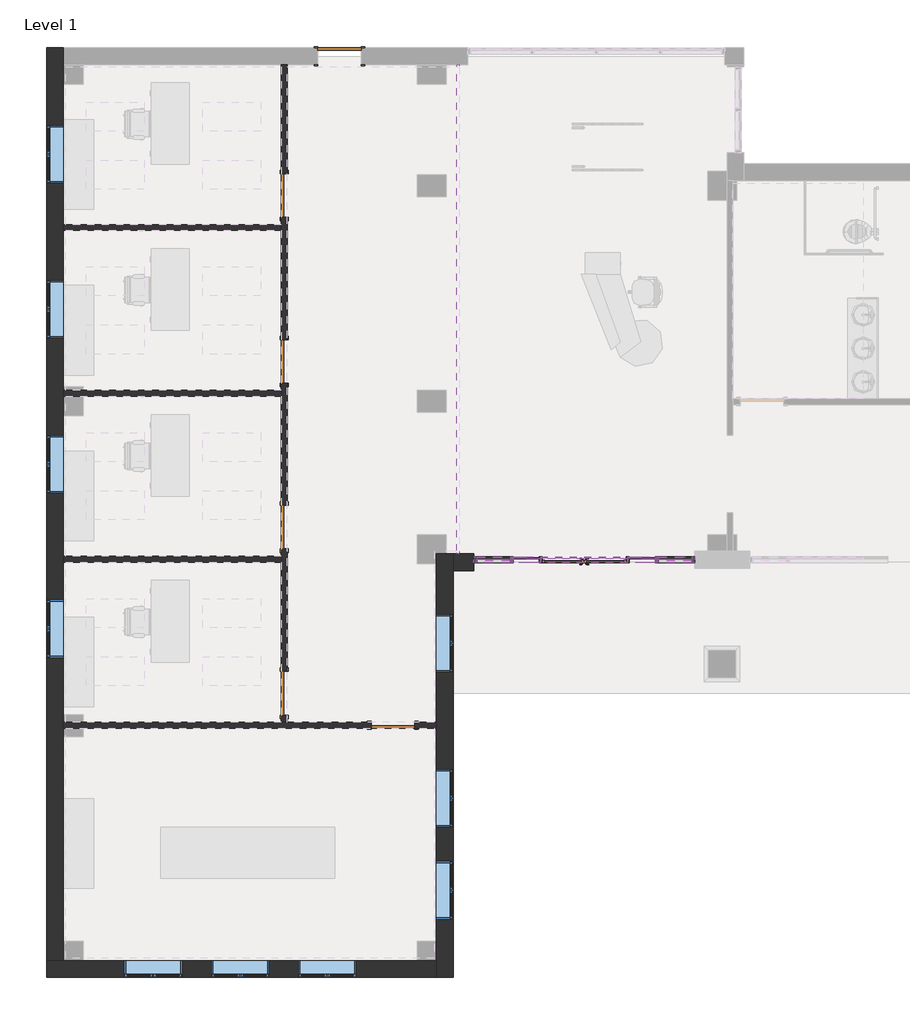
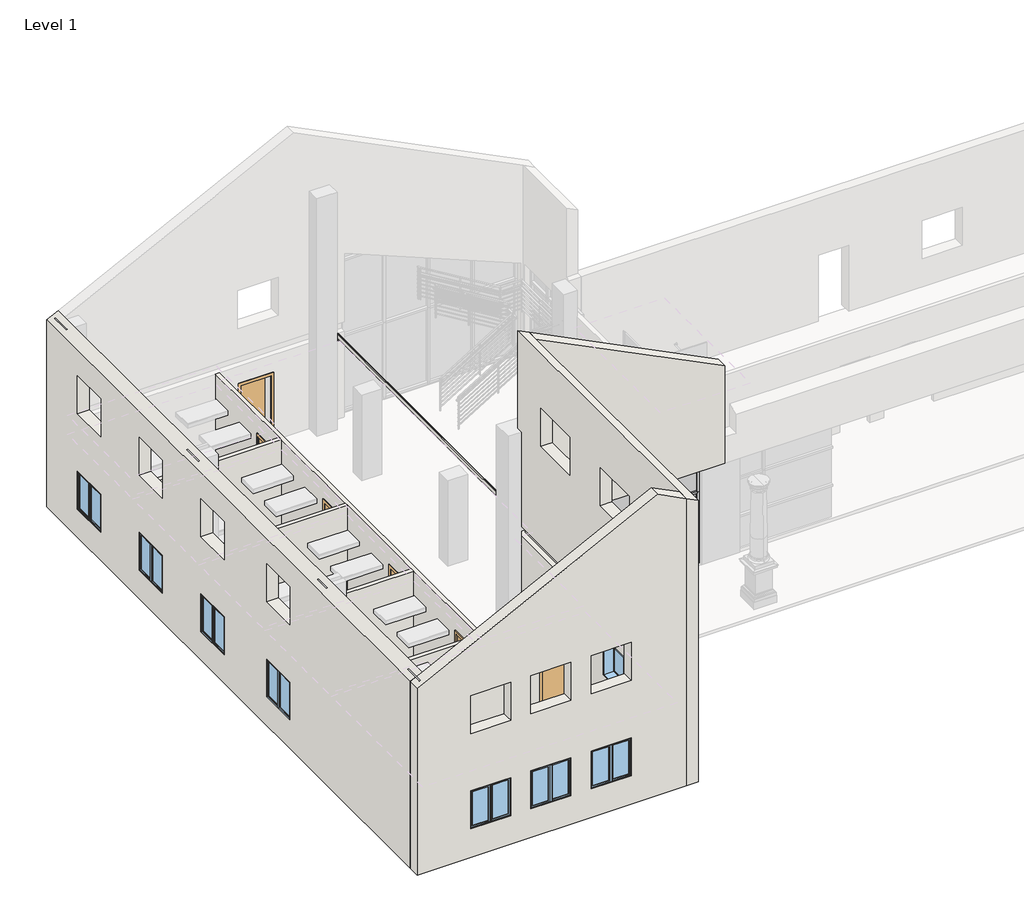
# One storey, part 1 of 8: 28 members, 10 walls, 10 windows, 9 plates, 7 doors.
"""IFC4 building model written with IfcOpenShell, lengths in millimetres."""

from ifc_helpers import new_model, si_unit, origin, origin_with_axes, place, context, project, spatial, polyline, outline, extrude, faceted_brep, transform, mapped, element, save
from components import curtain_wall_store_front_dbl_store_front_double_door_b1cda55e, door_cc5399a4, door_eb9f8b14, member_a715cb85, member_2b49869a, member_c7c5a8a0, member_f3028526, member_75074519, member_c4de40ee, member_2fae0574, member_47bfaf8a, member_13dc6413, member_4ab4c2f5, member_b5e65c95, member_b3f2e294, member_d60e8053, member_3ca69e07, member_338de68b, system_panel_glazed_53b4157c, system_panel_glazed_7b5ce646, system_panel_glazed_23a32a5b, system_panel_glazed_4b03a3f1, system_panel_glazed_2f00aa6c, system_panel_glazed_88a41a63, system_panel_solid_52285aff, system_panel_solid_6039f36e, window_75435c65

model = new_model("IFC4")

# Units and contexts
model_context = context("Model", 3, world=origin())
ifc_project = project(units=[si_unit("LENGTHUNIT", "METRE", prefix="MILLI")], contexts=[model_context])

# Site, building, storey
site = spatial("IfcSite", under=ifc_project)
building = spatial("IfcBuilding", under=site)
storey = spatial("IfcBuildingStorey", under=building, Name="Level 1", Elevation=0.0)

# Doors
placement = place(None, origin())
curtain_wall_store_front_dbl_store_front_double_door_shape = curtain_wall_store_front_dbl_store_front_double_door_b1cda55e(model_context)
element("IfcDoor", 1, ObjectType="Curtain Wall-Store Front-Dbl : Store Front Double Door", at=placement, inside=storey, context=model_context, shape_type="MappedRepresentation", body=[
    mapped(curtain_wall_store_front_dbl_store_front_double_door_shape, transform((-2655.3516552, 175.3980424, 0.0), x_axis=(1.0, 0.0, 0.0), y_axis=(0.0, 1.0, 0.0), z_axis=(0.0, 0.0, 1.0))),
])
door_shape = door_cc5399a4(model_context)
element("IfcDoor", 2, ObjectType="Single-Flush : 36\" x 84\"", at=placement, inside=storey, context=model_context, shape_type="MappedRepresentation", body=[
    mapped(door_shape, transform((-7789.3266552, 10744.9730424, 0.0), x_axis=(-1.0, 0.0, 0.0), y_axis=(0.0, -1.0, 0.0), z_axis=(0.0, 0.0, 1.0))),
])
door_2_shape = door_eb9f8b14(model_context)
element("IfcDoor", 3, ObjectType="Single-Flush : 36\" x 84\"", at=placement, inside=storey, context=model_context, shape_type="MappedRepresentation", body=[
    mapped(door_2_shape, transform((-6668.5516552, -3294.8769576, 0.0), x_axis=(1.0, 0.0, 0.0), y_axis=(0.0, 1.0, 0.0), z_axis=(0.0, 0.0, 1.0))),
])
element("IfcDoor", 4, ObjectType="Single-Flush : 36\" x 84\"", at=placement, inside=storey, context=model_context, shape_type="MappedRepresentation", body=[
    mapped(door_2_shape, transform((-8949.7891552, -2623.3644576, 0.0), x_axis=(0.0, -1.0, 0.0), y_axis=(1.0, 0.0, 0.0), z_axis=(0.0, 0.0, 1.0))),
])
element("IfcDoor", 5, ObjectType="Single-Flush : 36\" x 84\"", at=placement, inside=storey, context=model_context, shape_type="MappedRepresentation", body=[
    mapped(door_2_shape, transform((-8949.7891552, 862.7855424, 0.0), x_axis=(0.0, -1.0, 0.0), y_axis=(1.0, 0.0, 0.0), z_axis=(0.0, 0.0, 1.0))),
])
element("IfcDoor", 6, ObjectType="Single-Flush : 36\" x 84\"", at=placement, inside=storey, context=model_context, shape_type="MappedRepresentation", body=[
    mapped(door_2_shape, transform((-8949.7891552, 4339.4105424, 0.0), x_axis=(0.0, -1.0, 0.0), y_axis=(1.0, 0.0, 0.0), z_axis=(0.0, 0.0, 1.0))),
])
element("IfcDoor", 7, ObjectType="Single-Flush : 36\" x 84\"", at=placement, inside=storey, context=model_context, shape_type="MappedRepresentation", body=[
    mapped(door_2_shape, transform((-8949.7891552, 7820.7980424, 0.0), x_axis=(0.0, -1.0, 0.0), y_axis=(1.0, 0.0, 0.0), z_axis=(0.0, 0.0, 1.0))),
])

# Members
member_shape = member_a715cb85(model_context)
element("IfcMember", 8, ObjectType="Rectangular Mullion : 2.5\" x 5\" Rectangular", at=placement, inside=storey, context=model_context, shape_type="MappedRepresentation", body=[
    mapped(member_shape, transform((-4179.3516552, 175.3980424, 0.0), x_axis=(1.0, 0.0, 0.0), y_axis=(0.0, -1.0, 0.0), z_axis=(0.0, 0.0, -1.0))),
])
element("IfcMember", 9, ObjectType="Rectangular Mullion : 2.5\" x 5\" Rectangular", at=placement, inside=storey, context=model_context, shape_type="MappedRepresentation", body=[
    mapped(member_shape, transform((-1131.3516552, 175.3980424, 0.0), x_axis=(1.0, 0.0, 0.0), y_axis=(0.0, -1.0, 0.0), z_axis=(0.0, 0.0, -1.0))),
])
element("IfcMember", 10, ObjectType="Rectangular Mullion : 2.5\" x 5\" Rectangular", at=placement, inside=storey, context=model_context, shape_type="MappedRepresentation", body=[
    mapped(member_shape, transform((-369.3516552, 175.3980424, 0.0), x_axis=(1.0, 0.0, 0.0), y_axis=(0.0, -1.0, 0.0), z_axis=(0.0, 0.0, -1.0))),
])
member_2_shape = member_2b49869a(model_context)
element("IfcMember", 11, ObjectType="Rectangular Mullion : 2.5\" x 5\" Rectangular", at=placement, inside=storey, context=model_context, shape_type="MappedRepresentation", body=[
    mapped(member_2_shape, transform((-4179.3516552, 175.3980424, 1066.8), x_axis=(1.0, 0.0, 0.0), y_axis=(0.0, -1.0, 0.0), z_axis=(0.0, 0.0, -1.0))),
])
element("IfcMember", 12, ObjectType="Rectangular Mullion : 2.5\" x 5\" Rectangular", at=placement, inside=storey, context=model_context, shape_type="MappedRepresentation", body=[
    mapped(member_2_shape, transform((-1131.3516552, 175.3980424, 1066.8), x_axis=(1.0, 0.0, 0.0), y_axis=(0.0, -1.0, 0.0), z_axis=(0.0, 0.0, -1.0))),
])
element("IfcMember", 13, ObjectType="Rectangular Mullion : 2.5\" x 5\" Rectangular", at=placement, inside=storey, context=model_context, shape_type="MappedRepresentation", body=[
    mapped(member_2_shape, transform((-369.3516552, 175.3980424, 1066.8), x_axis=(1.0, 0.0, 0.0), y_axis=(0.0, -1.0, 0.0), z_axis=(0.0, 0.0, -1.0))),
])
member_3_shape = member_c7c5a8a0(model_context)
element("IfcMember", 14, ObjectType="Rectangular Mullion : 2.5\" x 5\" Rectangular", at=placement, inside=storey, context=model_context, shape_type="MappedRepresentation", body=[
    mapped(member_3_shape, transform((-401.1016552, 175.3980424, 2286.0), x_axis=(0.0, 0.0, 1.0), y_axis=(0.0, -1.0, 0.0), z_axis=(1.0, 0.0, 0.0))),
])
element("IfcMember", 15, ObjectType="Rectangular Mullion : 2.5\" x 5\" Rectangular", at=placement, inside=storey, context=model_context, shape_type="MappedRepresentation", body=[
    mapped(member_3_shape, transform((-401.1016552, 175.3980424, 1066.8), x_axis=(0.0, 0.0, 1.0), y_axis=(0.0, -1.0, 0.0), z_axis=(1.0, 0.0, 0.0))),
])
member_4_shape = member_f3028526(model_context)
element("IfcMember", 16, ObjectType="Rectangular Mullion : 2.5\" x 5\" Rectangular", at=placement, inside=storey, context=model_context, shape_type="MappedRepresentation", body=[
    mapped(member_4_shape, transform((-4211.1016552, 175.3980424, 2286.0), x_axis=(0.0, 0.0, 1.0), y_axis=(0.0, -1.0, 0.0), z_axis=(1.0, 0.0, 0.0))),
])
element("IfcMember", 17, ObjectType="Rectangular Mullion : 2.5\" x 5\" Rectangular", at=placement, inside=storey, context=model_context, shape_type="MappedRepresentation", body=[
    mapped(member_4_shape, transform((-4211.1016552, 175.3980424, 1066.8), x_axis=(0.0, 0.0, 1.0), y_axis=(0.0, -1.0, 0.0), z_axis=(1.0, 0.0, 0.0))),
])
member_5_shape = member_75074519(model_context)
element("IfcMember", 18, ObjectType="Rectangular Mullion : 2.5\" x 5\" Rectangular", at=placement, inside=storey, context=model_context, shape_type="MappedRepresentation", body=[
    mapped(member_5_shape, transform((-4968.3391552, 175.3980424, 2286.0), x_axis=(-1.0, 0.0, 0.0), y_axis=(0.0, -1.0, 0.0), z_axis=(0.0, 0.0, 1.0))),
])
member_6_shape = member_c4de40ee(model_context)
element("IfcMember", 19, ObjectType="Rectangular Mullion : 2.5\" x 5\" Rectangular", at=placement, inside=storey, context=model_context, shape_type="MappedRepresentation", body=[
    mapped(member_6_shape, transform((-4968.3391552, 175.3980424, 1066.8), x_axis=(-1.0, 0.0, 0.0), y_axis=(0.0, -1.0, 0.0), z_axis=(0.0, 0.0, 1.0))),
])
member_7_shape = member_2fae0574(model_context)
element("IfcMember", 20, ObjectType="Rectangular Mullion : 2.5\" x 5\" Rectangular", at=placement, inside=storey, context=model_context, shape_type="MappedRepresentation", body=[
    mapped(member_7_shape, transform((-1740.9516552, 175.3980424, 3060.0), x_axis=(0.0, 0.0, 1.0), y_axis=(0.0, -1.0, 0.0), z_axis=(1.0, 0.0, 0.0))),
])
member_8_shape = member_47bfaf8a(model_context)
element("IfcMember", 21, ObjectType="Rectangular Mullion : 2.5\" x 5\" Rectangular", at=placement, inside=storey, context=model_context, shape_type="MappedRepresentation", body=[
    mapped(member_8_shape, transform((-3569.7516552, 175.3980424, 3060.0), x_axis=(0.0, 0.0, 1.0), y_axis=(0.0, -1.0, 0.0), z_axis=(1.0, 0.0, 0.0))),
])
element("IfcMember", 22, ObjectType="Rectangular Mullion : 2.5\" x 5\" Rectangular", at=placement, inside=storey, context=model_context, shape_type="MappedRepresentation", body=[
    mapped(member_8_shape, transform((-1131.3516552, 175.3980424, 3060.0), x_axis=(0.0, 0.0, 1.0), y_axis=(0.0, -1.0, 0.0), z_axis=(1.0, 0.0, 0.0))),
])
member_9_shape = member_13dc6413(model_context)
element("IfcMember", 23, ObjectType="Rectangular Mullion : 2.5\" x 5\" Rectangular", at=placement, inside=storey, context=model_context, shape_type="MappedRepresentation", body=[
    mapped(member_9_shape, transform((-337.6016552, 175.3980424, 3060.0), x_axis=(0.0, 0.0, 1.0), y_axis=(0.0, -1.0, 0.0), z_axis=(1.0, 0.0, 0.0))),
])
member_10_shape = member_4ab4c2f5(model_context)
element("IfcMember", 24, ObjectType="Rectangular Mullion : 2.5\" x 5\" Rectangular", at=placement, inside=storey, context=model_context, shape_type="MappedRepresentation", body=[
    mapped(member_10_shape, transform((-4179.3516552, 175.3980424, 3060.0), x_axis=(0.0, 0.0, 1.0), y_axis=(0.0, -1.0, 0.0), z_axis=(1.0, 0.0, 0.0))),
])
element("IfcMember", 25, ObjectType="Rectangular Mullion : 2.5\" x 5\" Rectangular", at=placement, inside=storey, context=model_context, shape_type="MappedRepresentation", body=[
    mapped(member_shape, transform((-3569.7516552, 175.3980424, 0.0), x_axis=(1.0, 0.0, 0.0), y_axis=(0.0, -1.0, 0.0), z_axis=(0.0, 0.0, -1.0))),
])
element("IfcMember", 26, ObjectType="Rectangular Mullion : 2.5\" x 5\" Rectangular", at=placement, inside=storey, context=model_context, shape_type="MappedRepresentation", body=[
    mapped(member_shape, transform((-1740.9516552, 175.3980424, 0.0), x_axis=(1.0, 0.0, 0.0), y_axis=(0.0, -1.0, 0.0), z_axis=(0.0, 0.0, -1.0))),
])
member_11_shape = member_b5e65c95(model_context)
element("IfcMember", 27, ObjectType="Rectangular Mullion : 2.5\" x 5\" Rectangular", at=placement, inside=storey, context=model_context, shape_type="MappedRepresentation", body=[
    mapped(member_11_shape, transform((-3569.7516552, 175.3980424, 2286.0), x_axis=(0.0, 0.0, 1.0), y_axis=(0.0, -1.0, 0.0), z_axis=(1.0, 0.0, 0.0))),
])
member_12_shape = member_b3f2e294(model_context)
element("IfcMember", 28, ObjectType="Rectangular Mullion : 2.5\" x 5\" Rectangular", at=placement, inside=storey, context=model_context, shape_type="MappedRepresentation", body=[
    mapped(member_12_shape, transform((-3569.7516552, 175.3980424, 1066.8), x_axis=(1.0, 0.0, 0.0), y_axis=(0.0, -1.0, 0.0), z_axis=(0.0, 0.0, -1.0))),
])
element("IfcMember", 29, ObjectType="Rectangular Mullion : 2.5\" x 5\" Rectangular", at=placement, inside=storey, context=model_context, shape_type="MappedRepresentation", body=[
    mapped(member_12_shape, transform((-1740.9516552, 175.3980424, 1066.8), x_axis=(1.0, 0.0, 0.0), y_axis=(0.0, -1.0, 0.0), z_axis=(0.0, 0.0, -1.0))),
])
element("IfcMember", 30, ObjectType="Rectangular Mullion : 2.5\" x 5\" Rectangular", at=placement, inside=storey, context=model_context, shape_type="MappedRepresentation", body=[
    mapped(member_11_shape, transform((-1163.1016552, 175.3980424, 2286.0), x_axis=(0.0, 0.0, 1.0), y_axis=(0.0, -1.0, 0.0), z_axis=(1.0, 0.0, 0.0))),
])
member_13_shape = member_d60e8053(model_context)
element("IfcMember", 31, ObjectType="Rectangular Mullion : 2.5\" x 5\" Rectangular", at=placement, inside=storey, context=model_context, shape_type="MappedRepresentation", body=[
    mapped(member_13_shape, transform((-1740.9516552, 175.3980424, 2286.0), x_axis=(0.0, 0.0, 1.0), y_axis=(0.0, -1.0, 0.0), z_axis=(1.0, 0.0, 0.0))),
])
member_14_shape = member_3ca69e07(model_context)
element("IfcMember", 32, ObjectType="Rectangular Mullion : 2.5\" x 5\" Rectangular", at=placement, inside=storey, context=model_context, shape_type="MappedRepresentation", body=[
    mapped(member_14_shape, transform((-4179.3516552, 175.3980424, 2286.0), x_axis=(1.0, 0.0, 0.0), y_axis=(0.0, -1.0, 0.0), z_axis=(0.0, 0.0, -1.0))),
])
element("IfcMember", 33, ObjectType="Rectangular Mullion : 2.5\" x 5\" Rectangular", at=placement, inside=storey, context=model_context, shape_type="MappedRepresentation", body=[
    mapped(member_14_shape, transform((-1131.3516552, 175.3980424, 2286.0), x_axis=(1.0, 0.0, 0.0), y_axis=(0.0, -1.0, 0.0), z_axis=(0.0, 0.0, -1.0))),
])
element("IfcMember", 34, ObjectType="Rectangular Mullion : 2.5\" x 5\" Rectangular", at=placement, inside=storey, context=model_context, shape_type="MappedRepresentation", body=[
    mapped(member_14_shape, transform((-369.3516552, 175.3980424, 2286.0), x_axis=(1.0, 0.0, 0.0), y_axis=(0.0, -1.0, 0.0), z_axis=(0.0, 0.0, -1.0))),
])
member_15_shape = member_338de68b(model_context)
element("IfcMember", 35, ObjectType="Rectangular Mullion : 2.5\" x 5\" Rectangular", at=placement, inside=storey, context=model_context, shape_type="MappedRepresentation", body=[
    mapped(member_15_shape, transform((-4968.3391552, 175.3980424, 2996.5), x_axis=(-1.0, 0.0, 0.0), y_axis=(0.0, -1.0, 0.0), z_axis=(0.0, 0.0, 1.0))),
])

# Plates
system_panel_glazed_shape = system_panel_glazed_53b4157c(model_context)
element("IfcPlate", 36, ObjectType="System Panel : Glazed", at=placement, inside=storey, context=model_context, shape_type="MappedRepresentation", body=[
    mapped(system_panel_glazed_shape, transform((-750.3516552, 175.3980424, 0.0), x_axis=(1.0, 0.0, 0.0), y_axis=(0.0, 1.0, 0.0), z_axis=(0.0, 0.0, 1.0))),
])
system_panel_glazed_2_shape = system_panel_glazed_7b5ce646(model_context)
element("IfcPlate", 37, ObjectType="System Panel : Glazed", at=placement, inside=storey, context=model_context, shape_type="MappedRepresentation", body=[
    mapped(system_panel_glazed_2_shape, transform((-750.3516552, 175.3980424, 1098.55), x_axis=(1.0, 0.0, 0.0), y_axis=(0.0, 1.0, 0.0), z_axis=(0.0, 0.0, 1.0))),
])
system_panel_glazed_3_shape = system_panel_glazed_23a32a5b(model_context)
element("IfcPlate", 38, ObjectType="System Panel : Glazed", at=placement, inside=storey, context=model_context, shape_type="MappedRepresentation", body=[
    mapped(system_panel_glazed_3_shape, transform((-4557.9704052, 175.3980424, 0.0), x_axis=(1.0, 0.0, 0.0), y_axis=(0.0, 1.0, 0.0), z_axis=(0.0, 0.0, 1.0))),
])
system_panel_glazed_4_shape = system_panel_glazed_4b03a3f1(model_context)
element("IfcPlate", 39, ObjectType="System Panel : Glazed", at=placement, inside=storey, context=model_context, shape_type="MappedRepresentation", body=[
    mapped(system_panel_glazed_4_shape, transform((-4557.9704052, 175.3980424, 1098.55), x_axis=(1.0, 0.0, 0.0), y_axis=(0.0, 1.0, 0.0), z_axis=(0.0, 0.0, 1.0))),
])
system_panel_glazed_5_shape = system_panel_glazed_2f00aa6c(model_context)
element("IfcPlate", 40, ObjectType="System Panel : Glazed", at=placement, inside=storey, context=model_context, shape_type="MappedRepresentation", body=[
    mapped(system_panel_glazed_5_shape, transform((-3874.5516552, 175.3980424, 0.0), x_axis=(1.0, 0.0, 0.0), y_axis=(0.0, 1.0, 0.0), z_axis=(0.0, 0.0, 1.0))),
])
element("IfcPlate", 41, ObjectType="System Panel : Glazed", at=placement, inside=storey, context=model_context, shape_type="MappedRepresentation", body=[
    mapped(system_panel_glazed_5_shape, transform((-1436.1516552, 175.3980424, 0.0), x_axis=(1.0, 0.0, 0.0), y_axis=(0.0, 1.0, 0.0), z_axis=(0.0, 0.0, 1.0))),
])
system_panel_glazed_6_shape = system_panel_glazed_88a41a63(model_context)
element("IfcPlate", 42, ObjectType="System Panel : Glazed", at=placement, inside=storey, context=model_context, shape_type="MappedRepresentation", body=[
    mapped(system_panel_glazed_6_shape, transform((-2655.3516552, 175.3980424, 2317.75), x_axis=(1.0, 0.0, 0.0), y_axis=(0.0, 1.0, 0.0), z_axis=(0.0, 0.0, 1.0))),
])
system_panel_solid_shape = system_panel_solid_52285aff(model_context)
element("IfcPlate", 43, ObjectType="System Panel : Solid", at=placement, inside=storey, context=model_context, shape_type="MappedRepresentation", body=[
    mapped(system_panel_solid_shape, transform((-4557.9704052, 175.3980424, 2317.75), x_axis=(1.0, 0.0, 0.0), y_axis=(0.0, 1.0, 0.0), z_axis=(0.0, 0.0, 1.0))),
])
system_panel_solid_2_shape = system_panel_solid_6039f36e(model_context)
element("IfcPlate", 44, ObjectType="System Panel : Solid", at=placement, inside=storey, context=model_context, shape_type="MappedRepresentation", body=[
    mapped(system_panel_solid_2_shape, transform((-750.3516552, 175.3980424, 2317.75), x_axis=(1.0, 0.0, 0.0), y_axis=(0.0, 1.0, 0.0), z_axis=(0.0, 0.0, 1.0))),
])

# Walls
element("IfcWall", 45, ObjectType="Soffit - 1/2\" GWB & Metal Stud", at=placement, inside=storey, context=model_context, shape_type="Brep", body=[
    faceted_brep([(-5273.1391552, 10568.7605424, 2755.2), (-5273.1391552, 300.8105424, 2755.2), (-5273.1391552, 300.8105424, 2540.0), (-5273.1391552, 351.6105424, 2540.0), (-5273.1391552, 351.6105424, 2647.95), (-5273.1391552, 10517.9605424, 2647.95), (-5273.1391552, 10517.9605424, 2540.0), (-5273.1391552, 10568.7605424, 2540.0), (-5323.9391552, 10568.7605424, 2755.2), (-5323.9391552, 10568.7605424, 2540.0), (-5323.9391552, 10517.9605424, 2540.0), (-5323.9391552, 10517.9605424, 2647.95), (-5323.9391552, 351.6105424, 2647.95), (-5323.9391552, 351.6105424, 2540.0), (-5323.9391552, 300.8105424, 2540.0), (-5323.9391552, 300.8105424, 2755.2), (-5284.2516552, 10568.7605424, 2755.2), (-5284.2516552, 9554.527236, 2755.2), (-5284.2516552, 300.8105424, 2755.2)], [[[0, 1, 2, 3, 4, 5, 6, 7]], [[8, 9, 10, 11, 12, 13, 14, 15]], [[9, 7, 6, 10]], [[2, 14, 13, 3]], [[11, 5, 4, 12]], [[12, 4, 3, 13]], [[5, 11, 10, 6]], [[1, 0, 16, 17, 18]], [[0, 7, 9, 8, 16]], [[2, 1, 18, 15, 14]], [[16, 8, 15, 18, 17]]]),
])
element("IfcWall", 46, ObjectType="Exterior - Brick on Mtl. Stud", at=placement, inside=storey, context=model_context, shape_type="Brep", body=[
    faceted_brep([(-5754.1516552, 300.8105424, 0.0), (-5754.1516552, 97.6105424, 0.0), (-5754.1516552, -3232.9644576, 0.0), (-5754.1516552, -3356.7894576, 0.0), (-5754.1516552, -7827.1894576, 0.0), (-5754.1516552, -8233.5894576, 0.0), (-5754.1516552, -8586.0144576, 0.0), (-5754.1516552, -8586.0144576, 9230.55), (-5754.1516552, -8233.5894576, 9230.55), (-5754.1516552, 300.8105424, 9230.55), (-5754.1516552, 300.8105424, 6100.0), (-5754.1516552, 300.8105424, 3060.0), (-5754.1516552, -3232.9644576, 3060.0), (-5754.1516552, -3356.7894576, 3060.0), (-5754.1516552, -8233.5894576, 3060.0), (-5754.1516552, -8398.6894576, 3060.0), (-5754.1516552, -8398.6894576, 2755.2), (-5754.1516552, -8233.5894576, 2755.2), (-5754.1516552, -3356.7894576, 2755.2), (-5754.1516552, -3232.9644576, 2755.2), (-5754.1516552, 300.8105424, 2755.2), (-5754.1516552, -7366.8144576, 2133.6), (-5754.1516552, -7366.8144576, 914.4), (-5754.1516552, -6147.6144576, 914.4), (-5754.1516552, -6147.6144576, 2133.6), (-5754.1516552, -5436.4144576, 2133.6), (-5754.1516552, -5436.4144576, 914.4), (-5754.1516552, -4217.2144576, 914.4), (-5754.1516552, -4217.2144576, 2133.6), (-5754.1516552, -2185.2144576, 2133.6), (-5754.1516552, -2185.2144576, 914.4), (-5754.1516552, -966.0144576, 914.4), (-5754.1516552, -966.0144576, 2133.6), (-5754.1516552, -2439.2144576, 7471.6), (-5754.1516552, -2439.2144576, 6252.4), (-5754.1516552, -915.2144576, 6252.4), (-5754.1516552, -915.2144576, 7471.6), (-5754.1516552, -5572.9394576, 7471.6), (-5754.1516552, -5572.9394576, 6252.4), (-5754.1516552, -4048.9394576, 6252.4), (-5754.1516552, -4048.9394576, 7471.6), (-5754.1516552, -7471.5894576, 7471.6), (-5754.1516552, -7471.5894576, 6252.4), (-5754.1516552, -5947.5894576, 6252.4), (-5754.1516552, -5947.5894576, 7471.6), (-5754.1516552, -5420.5394576, 5193.6), (-5754.1516552, -5420.5394576, 3974.4), (-5754.1516552, -4201.3394576, 3974.4), (-5754.1516552, -4201.3394576, 5193.6), (-5754.1516552, -7319.1894576, 5193.6), (-5754.1516552, -7319.1894576, 3974.4), (-5754.1516552, -6099.9894576, 3974.4), (-5754.1516552, -6099.9894576, 5193.6), (-5401.7266552, -8586.0144576, 0.0), (-5401.7266552, -51.6144576, 0.0), (-5401.7266552, 300.8105424, 0.0), (-5401.7266552, 300.8105424, 2755.2), (-5401.7266552, 175.3980424, 2755.2), (-5401.7266552, 175.3980424, 3060.0), (-5401.7266552, 300.8105424, 3060.0), (-5401.7266552, 300.8105424, 9054.3375), (-5401.7266552, -51.6144576, 9054.3375), (-5401.7266552, -8586.0144576, 9054.3375), (-5401.7266552, -7366.8144576, 914.4), (-5401.7266552, -7366.8144576, 2133.6), (-5401.7266552, -6147.6144576, 2133.6), (-5401.7266552, -6147.6144576, 914.4), (-5401.7266552, -5436.4144576, 914.4), (-5401.7266552, -5436.4144576, 2133.6), (-5401.7266552, -4217.2144576, 2133.6), (-5401.7266552, -4217.2144576, 914.4), (-5401.7266552, -2185.2144576, 914.4), (-5401.7266552, -2185.2144576, 2133.6), (-5401.7266552, -966.0144576, 2133.6), (-5401.7266552, -966.0144576, 914.4), (-5401.7266552, -2439.2144576, 6252.4), (-5401.7266552, -2439.2144576, 7471.6), (-5401.7266552, -915.2144576, 7471.6), (-5401.7266552, -915.2144576, 6252.4), (-5401.7266552, -5572.9394576, 6252.4), (-5401.7266552, -5572.9394576, 7471.6), (-5401.7266552, -4048.9394576, 7471.6), (-5401.7266552, -4048.9394576, 6252.4), (-5401.7266552, -7471.5894576, 6252.4), (-5401.7266552, -7471.5894576, 7471.6), (-5401.7266552, -5947.5894576, 7471.6), (-5401.7266552, -5947.5894576, 6252.4), (-5401.7266552, -5420.5394576, 3974.4), (-5401.7266552, -5420.5394576, 5193.6), (-5401.7266552, -4201.3394576, 5193.6), (-5401.7266552, -4201.3394576, 3974.4), (-5401.7266552, -7319.1894576, 3974.4), (-5401.7266552, -7319.1894576, 5193.6), (-5401.7266552, -6099.9894576, 5193.6), (-5401.7266552, -6099.9894576, 3974.4), (-5550.9516552, 300.8105424, 0.0), (-5589.0516552, -8398.6894576, 2755.2), (-5589.0516552, 175.3980424, 2755.2), (-5589.0516552, 175.3980424, 3060.0), (-5589.0516552, -8398.6894576, 3060.0)], [[[0, 1, 2, 3, 4, 5, 6, 7, 8, 9, 10, 11, 12, 13, 14, 15, 16, 17, 18, 19, 20], [21, 22, 23, 24], [25, 26, 27, 28], [29, 30, 31, 32], [33, 34, 35, 36], [37, 38, 39, 40], [41, 42, 43, 44], [45, 46, 47, 48], [49, 50, 51, 52]], [[53, 54, 55, 56, 57, 58, 59, 60, 61, 62], [63, 64, 65, 66], [67, 68, 69, 70], [71, 72, 73, 74], [75, 76, 77, 78], [79, 80, 81, 82], [83, 84, 85, 86], [87, 88, 89, 90], [91, 92, 93, 94]], [[6, 5, 4, 3, 2, 1, 0, 95, 55, 54, 53]], [[22, 21, 64, 63]], [[23, 22, 63, 66]], [[24, 23, 66, 65]], [[21, 24, 65, 64]], [[26, 25, 68, 67]], [[27, 26, 67, 70]], [[28, 27, 70, 69]], [[25, 28, 69, 68]], [[30, 29, 72, 71]], [[31, 30, 71, 74]], [[32, 31, 74, 73]], [[29, 32, 73, 72]], [[9, 8, 7, 62, 61, 60]], [[34, 33, 76, 75]], [[35, 34, 75, 78]], [[36, 35, 78, 77]], [[33, 36, 77, 76]], [[38, 37, 80, 79]], [[39, 38, 79, 82]], [[40, 39, 82, 81]], [[37, 40, 81, 80]], [[42, 41, 84, 83]], [[43, 42, 83, 86]], [[44, 43, 86, 85]], [[41, 44, 85, 84]], [[46, 45, 88, 87]], [[47, 46, 87, 90]], [[48, 47, 90, 89]], [[45, 48, 89, 88]], [[50, 49, 92, 91]], [[51, 50, 91, 94]], [[52, 51, 94, 93]], [[49, 52, 93, 92]], [[96, 97, 57, 56, 20, 19, 18, 17, 16]], [[98, 99, 15, 14, 13, 12, 11, 59, 58]], [[97, 96, 99, 98]], [[99, 96, 16, 15]], [[9, 60, 59, 11, 10]], [[55, 95, 0, 20, 56]], [[7, 6, 53, 62]], [[97, 98, 58, 57]]]),
])
element("IfcWall", 47, ObjectType="Exterior - Brick on Mtl. Stud", at=placement, inside=storey, context=model_context, shape_type="Brep", body=[
    faceted_brep([(-5754.1516552, -8233.5894576, 0.0), (-6160.5516552, -8233.5894576, 0.0), (-13170.9516552, -8233.5894576, 0.0), (-13583.7016552, -8233.5894576, 0.0), (-13936.1266552, -8233.5894576, 0.0), (-13936.1266552, -8233.5894576, 6006.3375), (-13583.7016552, -8233.5894576, 6182.55), (-6620.9266552, -8233.5894576, 9663.9375), (-5754.1516552, -8233.5894576, 9230.55), (-5754.1516552, -8233.5894576, 6100.0), (-5754.1516552, -8233.5894576, 3060.0), (-13596.4016552, -8233.5894576, 3060.0), (-13596.4016552, -8233.5894576, 2755.2), (-5754.1516552, -8233.5894576, 2755.2), (-12310.5266552, -8233.5894576, 2133.6), (-12310.5266552, -8233.5894576, 914.4), (-11091.3266552, -8233.5894576, 914.4), (-11091.3266552, -8233.5894576, 2133.6), (-10481.7266552, -8233.5894576, 2133.6), (-10481.7266552, -8233.5894576, 914.4), (-9262.5266552, -8233.5894576, 914.4), (-9262.5266552, -8233.5894576, 2133.6), (-8652.9266552, -8233.5894576, 2133.6), (-8652.9266552, -8233.5894576, 914.4), (-7433.7266552, -8233.5894576, 914.4), (-7433.7266552, -8233.5894576, 2133.6), (-8652.9266552, -8233.5894576, 5193.6), (-8652.9266552, -8233.5894576, 3974.4), (-7433.7266552, -8233.5894576, 3974.4), (-7433.7266552, -8233.5894576, 5193.6), (-10481.7266552, -8233.5894576, 5193.6), (-10481.7266552, -8233.5894576, 3974.4), (-9262.5266552, -8233.5894576, 3974.4), (-9262.5266552, -8233.5894576, 5193.6), (-12310.5266552, -8233.5894576, 5193.6), (-12310.5266552, -8233.5894576, 3974.4), (-11091.3266552, -8233.5894576, 3974.4), (-11091.3266552, -8233.5894576, 5193.6), (-13936.1266552, -8586.0144576, 0.0), (-5754.1516552, -8586.0144576, 0.0), (-5754.1516552, -8586.0144576, 9230.55), (-6620.9266552, -8586.0144576, 9663.9375), (-13936.1266552, -8586.0144576, 6006.3375), (-12310.5266552, -8586.0144576, 914.4), (-12310.5266552, -8586.0144576, 2133.6), (-11091.3266552, -8586.0144576, 2133.6), (-11091.3266552, -8586.0144576, 914.4), (-10481.7266552, -8586.0144576, 914.4), (-10481.7266552, -8586.0144576, 2133.6), (-9262.5266552, -8586.0144576, 2133.6), (-9262.5266552, -8586.0144576, 914.4), (-8652.9266552, -8586.0144576, 914.4), (-8652.9266552, -8586.0144576, 2133.6), (-7433.7266552, -8586.0144576, 2133.6), (-7433.7266552, -8586.0144576, 914.4), (-8652.9266552, -8586.0144576, 3974.4), (-8652.9266552, -8586.0144576, 5193.6), (-7433.7266552, -8586.0144576, 5193.6), (-7433.7266552, -8586.0144576, 3974.4), (-10481.7266552, -8586.0144576, 3974.4), (-10481.7266552, -8586.0144576, 5193.6), (-9262.5266552, -8586.0144576, 5193.6), (-9262.5266552, -8586.0144576, 3974.4), (-12310.5266552, -8586.0144576, 3974.4), (-12310.5266552, -8586.0144576, 5193.6), (-11091.3266552, -8586.0144576, 5193.6), (-11091.3266552, -8586.0144576, 3974.4), (-13596.4016552, -8398.6894576, 2755.2), (-5754.1516552, -8398.6894576, 2755.2), (-5754.1516552, -8398.6894576, 3060.0), (-13596.4016552, -8398.6894576, 3060.0)], [[[0, 1, 2, 3, 4, 5, 6, 7, 8, 9, 10, 11, 12, 13], [14, 15, 16, 17], [18, 19, 20, 21], [22, 23, 24, 25], [26, 27, 28, 29], [30, 31, 32, 33], [34, 35, 36, 37]], [[38, 39, 40, 41, 42], [43, 44, 45, 46], [47, 48, 49, 50], [51, 52, 53, 54], [55, 56, 57, 58], [59, 60, 61, 62], [63, 64, 65, 66]], [[4, 3, 2, 1, 0, 39, 38]], [[15, 14, 44, 43]], [[16, 15, 43, 46]], [[17, 16, 46, 45]], [[14, 17, 45, 44]], [[19, 18, 48, 47]], [[20, 19, 47, 50]], [[21, 20, 50, 49]], [[18, 21, 49, 48]], [[23, 22, 52, 51]], [[24, 23, 51, 54]], [[25, 24, 54, 53]], [[22, 25, 53, 52]], [[8, 7, 41, 40]], [[7, 6, 5, 42, 41]], [[27, 26, 56, 55]], [[28, 27, 55, 58]], [[29, 28, 58, 57]], [[26, 29, 57, 56]], [[31, 30, 60, 59]], [[32, 31, 59, 62]], [[33, 32, 62, 61]], [[30, 33, 61, 60]], [[35, 34, 64, 63]], [[36, 35, 63, 66]], [[37, 36, 66, 65]], [[34, 37, 65, 64]], [[12, 67, 68, 13]], [[69, 70, 11, 10]], [[67, 70, 69, 68]], [[70, 67, 12, 11]], [[5, 4, 38, 42]], [[8, 40, 39, 0, 13, 68, 69, 10, 9]]]),
])
element("IfcWall", 48, ObjectType="Exterior - Brick on Mtl. Stud", at=placement, inside=storey, context=model_context, shape_type="Brep", body=[
    faceted_brep([(-13583.7016552, -8233.5894576, 0.0), (-13583.7016552, -7827.1894576, 0.0), (-13583.7016552, -3534.5894576, 0.0), (-13583.7016552, -3356.7894576, 0.0), (-13583.7016552, -3232.9644576, 0.0), (-13583.7016552, -3077.3894576, 0.0), (-13583.7016552, 124.5980424, 0.0), (-13583.7016552, 248.4230424, 0.0), (-13583.7016552, 3196.4105424, 0.0), (-13583.7016552, 3605.9855424, 0.0), (-13583.7016552, 3729.8105424, 0.0), (-13583.7016552, 3806.0105424, 0.0), (-13583.7016552, 7087.3730424, 0.0), (-13583.7016552, 7211.1980424, 0.0), (-13583.7016552, 10156.0105424, 0.0), (-13583.7016552, 10568.7605424, 0.0), (-13583.7016552, 10921.1855424, 0.0), (-13583.7016552, 10921.1855424, 6182.55), (-13583.7016552, 10568.7605424, 6182.55), (-13583.7016552, -8233.5894576, 6182.55), (-13583.7016552, -8233.5894576, 6100.0), (-13583.7016552, -8233.5894576, 3060.0), (-13583.7016552, -3356.7894576, 3060.0), (-13583.7016552, -3232.9644576, 3060.0), (-13583.7016552, 124.5980424, 3060.0), (-13583.7016552, 248.4230424, 3060.0), (-13583.7016552, 3605.9855424, 3060.0), (-13583.7016552, 3729.8105424, 3060.0), (-13583.7016552, 7087.3730424, 3060.0), (-13583.7016552, 7211.1980424, 3060.0), (-13583.7016552, 10733.8605424, 3060.0), (-13583.7016552, 10733.8605424, 2755.2), (-13583.7016552, 7211.1980424, 2755.2), (-13583.7016552, 7087.3730424, 2755.2), (-13583.7016552, 3729.8105424, 2755.2), (-13583.7016552, 3605.9855424, 2755.2), (-13583.7016552, 248.4230424, 2755.2), (-13583.7016552, 124.5980424, 2755.2), (-13583.7016552, -3232.9644576, 2755.2), (-13583.7016552, -3356.7894576, 2755.2), (-13583.7016552, -8233.5894576, 2755.2), (-13583.7016552, -661.2144576, 2133.6), (-13583.7016552, -661.2144576, 914.4), (-13583.7016552, -1880.4144576, 914.4), (-13583.7016552, -1880.4144576, 2133.6), (-13583.7016552, 2793.1855424, 2133.6), (-13583.7016552, 2793.1855424, 914.4), (-13583.7016552, 1573.9855424, 914.4), (-13583.7016552, 1573.9855424, 2133.6), (-13583.7016552, 6044.3855424, 2133.6), (-13583.7016552, 6044.3855424, 914.4), (-13583.7016552, 4825.1855424, 914.4), (-13583.7016552, 4825.1855424, 2133.6), (-13583.7016552, 9295.5855424, 2133.6), (-13583.7016552, 9295.5855424, 914.4), (-13583.7016552, 8076.3855424, 914.4), (-13583.7016552, 8076.3855424, 2133.6), (-13583.7016552, 9295.5855424, 5193.6), (-13583.7016552, 9295.5855424, 3974.4), (-13583.7016552, 8076.3855424, 3974.4), (-13583.7016552, 8076.3855424, 5193.6), (-13583.7016552, 6044.3855424, 5193.6), (-13583.7016552, 6044.3855424, 3974.4), (-13583.7016552, 4825.1855424, 3974.4), (-13583.7016552, 4825.1855424, 5193.6), (-13583.7016552, 2793.1855424, 5193.6), (-13583.7016552, 2793.1855424, 3974.4), (-13583.7016552, 1573.9855424, 3974.4), (-13583.7016552, 1573.9855424, 5193.6), (-13583.7016552, -661.2144576, 5193.6), (-13583.7016552, -661.2144576, 3974.4), (-13583.7016552, -1880.4144576, 3974.4), (-13583.7016552, -1880.4144576, 5193.6), (-13936.1266552, 10921.1855424, 0.0), (-13936.1266552, -8233.5894576, 0.0), (-13936.1266552, -8233.5894576, 6006.3375), (-13936.1266552, 10921.1855424, 6006.3375), (-13936.1266552, -661.2144576, 914.4), (-13936.1266552, -661.2144576, 2133.6), (-13936.1266552, -1880.4144576, 2133.6), (-13936.1266552, -1880.4144576, 914.4), (-13936.1266552, 2793.1855424, 914.4), (-13936.1266552, 2793.1855424, 2133.6), (-13936.1266552, 1573.9855424, 2133.6), (-13936.1266552, 1573.9855424, 914.4), (-13936.1266552, 6044.3855424, 914.4), (-13936.1266552, 6044.3855424, 2133.6), (-13936.1266552, 4825.1855424, 2133.6), (-13936.1266552, 4825.1855424, 914.4), (-13936.1266552, 9295.5855424, 914.4), (-13936.1266552, 9295.5855424, 2133.6), (-13936.1266552, 8076.3855424, 2133.6), (-13936.1266552, 8076.3855424, 914.4), (-13936.1266552, 9295.5855424, 3974.4), (-13936.1266552, 9295.5855424, 5193.6), (-13936.1266552, 8076.3855424, 5193.6), (-13936.1266552, 8076.3855424, 3974.4), (-13936.1266552, 6044.3855424, 3974.4), (-13936.1266552, 6044.3855424, 5193.6), (-13936.1266552, 4825.1855424, 5193.6), (-13936.1266552, 4825.1855424, 3974.4), (-13936.1266552, 2793.1855424, 3974.4), (-13936.1266552, 2793.1855424, 5193.6), (-13936.1266552, 1573.9855424, 5193.6), (-13936.1266552, 1573.9855424, 3974.4), (-13936.1266552, -661.2144576, 3974.4), (-13936.1266552, -661.2144576, 5193.6), (-13936.1266552, -1880.4144576, 5193.6), (-13936.1266552, -1880.4144576, 3974.4), (-13596.4016552, 10733.8605424, 2755.2), (-13596.4016552, -8233.5894576, 2755.2), (-13596.4016552, 10733.8605424, 3060.0), (-13596.4016552, -8233.5894576, 3060.0)], [[[0, 1, 2, 3, 4, 5, 6, 7, 8, 9, 10, 11, 12, 13, 14, 15, 16, 17, 18, 19, 20, 21, 22, 23, 24, 25, 26, 27, 28, 29, 30, 31, 32, 33, 34, 35, 36, 37, 38, 39, 40], [41, 42, 43, 44], [45, 46, 47, 48], [49, 50, 51, 52], [53, 54, 55, 56], [57, 58, 59, 60], [61, 62, 63, 64], [65, 66, 67, 68], [69, 70, 71, 72]], [[73, 74, 75, 76], [77, 78, 79, 80], [81, 82, 83, 84], [85, 86, 87, 88], [89, 90, 91, 92], [93, 94, 95, 96], [97, 98, 99, 100], [101, 102, 103, 104], [105, 106, 107, 108]], [[16, 15, 14, 13, 12, 11, 10, 9, 8, 7, 6, 5, 4, 3, 2, 1, 0, 74, 73]], [[42, 41, 78, 77]], [[43, 42, 77, 80]], [[44, 43, 80, 79]], [[41, 44, 79, 78]], [[46, 45, 82, 81]], [[47, 46, 81, 84]], [[48, 47, 84, 83]], [[45, 48, 83, 82]], [[50, 49, 86, 85]], [[51, 50, 85, 88]], [[52, 51, 88, 87]], [[49, 52, 87, 86]], [[54, 53, 90, 89]], [[55, 54, 89, 92]], [[56, 55, 92, 91]], [[53, 56, 91, 90]], [[19, 18, 17, 76, 75]], [[58, 57, 94, 93]], [[59, 58, 93, 96]], [[60, 59, 96, 95]], [[57, 60, 95, 94]], [[62, 61, 98, 97]], [[63, 62, 97, 100]], [[64, 63, 100, 99]], [[61, 64, 99, 98]], [[66, 65, 102, 101]], [[67, 66, 101, 104]], [[68, 67, 104, 103]], [[65, 68, 103, 102]], [[70, 69, 106, 105]], [[71, 70, 105, 108]], [[72, 71, 108, 107]], [[69, 72, 107, 106]], [[109, 110, 40, 39, 38, 37, 36, 35, 34, 33, 32, 31]], [[111, 30, 29, 28, 27, 26, 25, 24, 23, 22, 21, 112]], [[111, 109, 31, 30]], [[109, 111, 112, 110]], [[17, 16, 73, 76]], [[75, 74, 0, 40, 110, 112, 21, 20, 19]]]),
])
element("IfcWall", 49, ObjectType="Exterior - Brick on Mtl. Stud", at=placement, inside=storey, context=model_context, shape_type="Brep", body=[
    faceted_brep([(-5401.7266552, 300.8105424, 9054.3375), (341.8483448, 300.8105424, 6182.55), (341.8483448, 300.8105424, 3900.0), (341.8483448, 300.8105424, 3060.0), (-4968.3391552, 300.8105424, 3060.0), (-4968.3391552, 300.8105424, 0.0), (-5401.7266552, 300.8105424, 0.0), (341.8483448, -51.6144576, 6182.55), (-5401.7266552, -51.6144576, 9054.3375), (-5401.7266552, -51.6144576, 0.0), (-4968.3391552, -51.6144576, 0.0), (-4968.3391552, -51.6144576, 3060.0), (341.8483448, -51.6144576, 3060.0), (341.8483448, -51.6144576, 3900.0), (341.8483448, -51.6144576, 4627.075)], [[[0, 1, 2, 3, 4, 5, 6]], [[7, 8, 9, 10, 11, 12, 13, 14]], [[9, 6, 5, 10]], [[1, 0, 8, 7]], [[0, 6, 9, 8]], [[3, 2, 1, 7, 14, 13, 12]], [[4, 11, 10, 5]], [[11, 4, 3, 12]]]),
])
element("IfcWall", 50, ObjectType="Interior - 4 7/8\" Partition (1-hr)", at=placement, inside=storey, context=model_context, shape_type="Brep", body=[
    faceted_brep([(-8887.8766552, 4796.6105424, 0.0), (-8887.8766552, 7363.5980424, 0.0), (-8887.8766552, 7363.5980424, 2133.6), (-8887.8766552, 8277.9980424, 2133.6), (-8887.8766552, 8277.9980424, 0.0), (-8887.8766552, 10568.7605424, 0.0), (-8887.8766552, 10568.7605424, 2755.2), (-8887.8766552, -3232.9644576, 2755.2), (-8887.8766552, -3232.9644576, 0.0), (-8887.8766552, -3080.5644576, 0.0), (-8887.8766552, -3080.5644576, 2133.6), (-8887.8766552, -2166.1644576, 2133.6), (-8887.8766552, -2166.1644576, 0.0), (-8887.8766552, 405.5855424, 0.0), (-8887.8766552, 405.5855424, 2133.6), (-8887.8766552, 1319.9855424, 2133.6), (-8887.8766552, 1319.9855424, 0.0), (-8887.8766552, 3882.2105424, 0.0), (-8887.8766552, 3882.2105424, 2133.6), (-8887.8766552, 4796.6105424, 2133.6), (-9011.7016552, 7363.5980424, 2133.6), (-9011.7016552, 7363.5980424, 0.0), (-9011.7016552, 7211.1980424, 0.0), (-9011.7016552, 7087.3730424, 0.0), (-9011.7016552, 4796.6105424, 0.0), (-9011.7016552, 4796.6105424, 2133.6), (-9011.7016552, 3882.2105424, 2133.6), (-9011.7016552, 3882.2105424, 0.0), (-9011.7016552, 3729.8105424, 0.0), (-9011.7016552, 3605.9855424, 0.0), (-9011.7016552, 1319.9855424, 0.0), (-9011.7016552, 1319.9855424, 2133.6), (-9011.7016552, 405.5855424, 2133.6), (-9011.7016552, 405.5855424, 0.0), (-9011.7016552, 248.4230424, 0.0), (-9011.7016552, 124.5980424, 0.0), (-9011.7016552, -2166.1644576, 0.0), (-9011.7016552, -2166.1644576, 2133.6), (-9011.7016552, -3080.5644576, 2133.6), (-9011.7016552, -3080.5644576, 0.0), (-9011.7016552, -3232.9644576, 0.0), (-9011.7016552, -3232.9644576, 2755.2), (-9011.7016552, 124.5980424, 2755.2), (-9011.7016552, 248.4230424, 2755.2), (-9011.7016552, 3605.9855424, 2755.2), (-9011.7016552, 3729.8105424, 2755.2), (-9011.7016552, 7087.3730424, 2755.2), (-9011.7016552, 7211.1980424, 2755.2), (-9011.7016552, 10568.7605424, 2755.2), (-9011.7016552, 10568.7605424, 0.0), (-9011.7016552, 8277.9980424, 0.0), (-9011.7016552, 8277.9980424, 2133.6)], [[[0, 1, 2, 3, 4, 5, 6, 7, 8, 9, 10, 11, 12, 13, 14, 15, 16, 17, 18, 19]], [[20, 21, 22, 23, 24, 25, 26, 27, 28, 29, 30, 31, 32, 33, 34, 35, 36, 37, 38, 39, 40, 41, 42, 43, 44, 45, 46, 47, 48, 49, 50, 51]], [[40, 39, 9, 8]], [[36, 35, 34, 33, 13, 12]], [[30, 29, 28, 27, 17, 16]], [[50, 49, 5, 4]], [[24, 23, 22, 21, 1, 0]], [[8, 7, 41, 40]], [[10, 9, 39, 38]], [[11, 10, 38, 37]], [[12, 11, 37, 36]], [[14, 13, 33, 32]], [[15, 14, 32, 31]], [[16, 15, 31, 30]], [[18, 17, 27, 26]], [[19, 18, 26, 25]], [[0, 19, 25, 24]], [[2, 1, 21, 20]], [[3, 2, 20, 51]], [[4, 3, 51, 50]], [[7, 6, 48, 47, 46, 45, 44, 43, 42, 41]], [[6, 5, 49, 48]]]),
])
element("IfcWall", 51, ObjectType="Interior - 4 7/8\" Partition (1-hr)", at=placement, inside=storey, context=model_context, shape_type="Brep", body=[
    faceted_brep([(-6211.3516552, -3356.7894576, 2133.6), (-6211.3516552, -3356.7894576, 0.0), (-5754.1516552, -3356.7894576, 0.0), (-5754.1516552, -3356.7894576, 2755.2), (-13170.9516552, -3356.7894576, 2755.2), (-13583.7016552, -3356.7894576, 2755.2), (-13583.7016552, -3356.7894576, 0.0), (-13170.9516552, -3356.7894576, 0.0), (-7125.7516552, -3356.7894576, 0.0), (-7125.7516552, -3356.7894576, 2133.6), (-5754.1516552, -3232.9644576, 0.0), (-6211.3516552, -3232.9644576, 0.0), (-6211.3516552, -3232.9644576, 2133.6), (-7125.7516552, -3232.9644576, 2133.6), (-7125.7516552, -3232.9644576, 0.0), (-8887.8766552, -3232.9644576, 0.0), (-9011.7016552, -3232.9644576, 0.0), (-13170.9516552, -3232.9644576, 0.0), (-13583.7016552, -3232.9644576, 0.0), (-13583.7016552, -3232.9644576, 2755.2), (-13170.9516552, -3232.9644576, 2755.2), (-9011.7016552, -3232.9644576, 2755.2), (-8887.8766552, -3232.9644576, 2755.2), (-5754.1516552, -3232.9644576, 2755.2)], [[[0, 1, 2, 3, 4, 5, 6, 7, 8, 9]], [[10, 11, 12, 13, 14, 15, 16, 17, 18, 19, 20, 21, 22, 23]], [[2, 1, 11, 10]], [[8, 7, 6, 18, 17, 16, 15, 14]], [[12, 11, 1, 0]], [[13, 12, 0, 9]], [[14, 13, 9, 8]], [[5, 4, 3, 23, 22, 21, 20, 19]], [[3, 2, 10, 23]], [[6, 5, 19, 18]]]),
])
element("IfcWall", 52, ObjectType="Interior - 4 7/8\" Partition (1-hr)", at=placement, inside=storey, context=model_context, shape_type="SweptSolid", body=[
    extrude(outline(polyline([(-9011.7016552, 124.5980424), (-13583.7016552, 124.5980424), (-13583.7016552, 248.4230424), (-9011.7016552, 248.4230424), (-9011.7016552, 124.5980424)])), origin_with_axes(), (0.0, 0.0, 1.0), 2755.2),
])
element("IfcWall", 53, ObjectType="Interior - 4 7/8\" Partition (1-hr)", at=placement, inside=storey, context=model_context, shape_type="Brep", body=[
    faceted_brep([(-13583.7016552, 3605.9855424, 0.0), (-13170.9516552, 3605.9855424, 0.0), (-9011.7016552, 3605.9855424, 0.0), (-9011.7016552, 3605.9855424, 2755.2), (-13170.9516552, 3605.9855424, 2755.2), (-13583.7016552, 3605.9855424, 2755.2), (-13583.7016552, 3729.8105424, 0.0), (-13583.7016552, 3729.8105424, 2755.2), (-13170.9516552, 3729.8105424, 2755.2), (-9011.7016552, 3729.8105424, 2755.2), (-9011.7016552, 3729.8105424, 0.0), (-13170.9516552, 3729.8105424, 0.0)], [[[0, 1, 2, 3, 4, 5]], [[6, 7, 8, 9, 10, 11]], [[2, 1, 0, 6, 11, 10]], [[3, 2, 10, 9]], [[5, 4, 3, 9, 8, 7]], [[0, 5, 7, 6]]]),
])
element("IfcWall", 54, ObjectType="Interior - 4 7/8\" Partition (1-hr)", at=placement, inside=storey, context=model_context, shape_type="SweptSolid", body=[
    extrude(outline(polyline([(-9011.7016552, 7087.3730424), (-13583.7016552, 7087.3730424), (-13583.7016552, 7211.1980424), (-9011.7016552, 7211.1980424), (-9011.7016552, 7087.3730424)])), origin_with_axes(), (0.0, 0.0, 1.0), 2755.2),
])

# Windows
window_shape = window_75435c65(model_context)
element("IfcWindow", 55, ObjectType="Casement Double : 48\" x 48\"", at=placement, inside=storey, context=model_context, shape_type="MappedRepresentation", body=[
    mapped(window_shape, transform((-13740.8641552, -1270.8144576, 0.0), x_axis=(0.0, 1.0, 0.0), y_axis=(-1.0, 0.0, 0.0), z_axis=(0.0, 0.0, 1.0))),
])
element("IfcWindow", 56, ObjectType="Casement Double : 48\" x 48\"", at=placement, inside=storey, context=model_context, shape_type="MappedRepresentation", body=[
    mapped(window_shape, transform((-13740.8641552, 2183.5855424, 0.0), x_axis=(0.0, 1.0, 0.0), y_axis=(-1.0, 0.0, 0.0), z_axis=(0.0, 0.0, 1.0))),
])
element("IfcWindow", 57, ObjectType="Casement Double : 48\" x 48\"", at=placement, inside=storey, context=model_context, shape_type="MappedRepresentation", body=[
    mapped(window_shape, transform((-13740.8641552, 5434.7855424, 0.0), x_axis=(0.0, 1.0, 0.0), y_axis=(-1.0, 0.0, 0.0), z_axis=(0.0, 0.0, 1.0))),
])
element("IfcWindow", 58, ObjectType="Casement Double : 48\" x 48\"", at=placement, inside=storey, context=model_context, shape_type="MappedRepresentation", body=[
    mapped(window_shape, transform((-13740.8641552, 8685.9855424, 0.0), x_axis=(0.0, 1.0, 0.0), y_axis=(-1.0, 0.0, 0.0), z_axis=(0.0, 0.0, 1.0))),
])
element("IfcWindow", 59, ObjectType="Casement Double : 48\" x 48\"", at=placement, inside=storey, context=model_context, shape_type="MappedRepresentation", body=[
    mapped(window_shape, transform((-11700.9266552, -8390.7519576, 0.0), x_axis=(-1.0, 0.0, 0.0), y_axis=(0.0, -1.0, 0.0), z_axis=(0.0, 0.0, 1.0))),
])
element("IfcWindow", 60, ObjectType="Casement Double : 48\" x 48\"", at=placement, inside=storey, context=model_context, shape_type="MappedRepresentation", body=[
    mapped(window_shape, transform((-9872.1266552, -8390.7519576, 0.0), x_axis=(-1.0, 0.0, 0.0), y_axis=(0.0, -1.0, 0.0), z_axis=(0.0, 0.0, 1.0))),
])
element("IfcWindow", 61, ObjectType="Casement Double : 48\" x 48\"", at=placement, inside=storey, context=model_context, shape_type="MappedRepresentation", body=[
    mapped(window_shape, transform((-8043.3266552, -8390.7519576, 0.0), x_axis=(-1.0, 0.0, 0.0), y_axis=(0.0, -1.0, 0.0), z_axis=(0.0, 0.0, 1.0))),
])
element("IfcWindow", 62, ObjectType="Casement Double : 48\" x 48\"", at=placement, inside=storey, context=model_context, shape_type="MappedRepresentation", body=[
    mapped(window_shape, transform((-5596.9891552, -6757.2144576, 0.0), x_axis=(0.0, -1.0, 0.0), y_axis=(1.0, 0.0, 0.0), z_axis=(0.0, 0.0, 1.0))),
])
element("IfcWindow", 63, ObjectType="Casement Double : 48\" x 48\"", at=placement, inside=storey, context=model_context, shape_type="MappedRepresentation", body=[
    mapped(window_shape, transform((-5596.9891552, -4826.8144576, 0.0), x_axis=(0.0, -1.0, 0.0), y_axis=(1.0, 0.0, 0.0), z_axis=(0.0, 0.0, 1.0))),
])
element("IfcWindow", 64, ObjectType="Casement Double : 48\" x 48\"", at=placement, inside=storey, context=model_context, shape_type="MappedRepresentation", body=[
    mapped(window_shape, transform((-5596.9891552, -1575.6144576, 0.0), x_axis=(0.0, -1.0, 0.0), y_axis=(1.0, 0.0, 0.0), z_axis=(0.0, 0.0, 1.0))),
])

save(model, "model.ifc")
